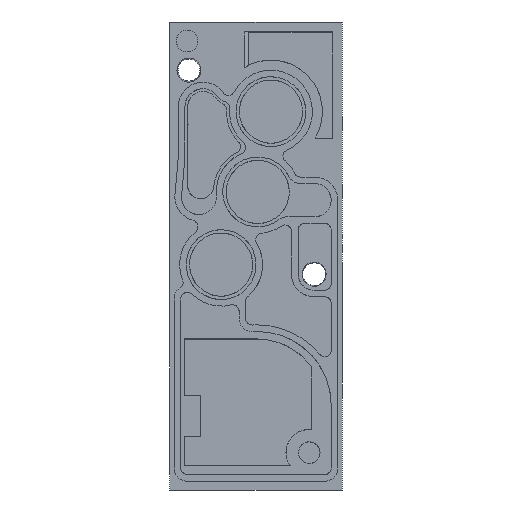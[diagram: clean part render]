
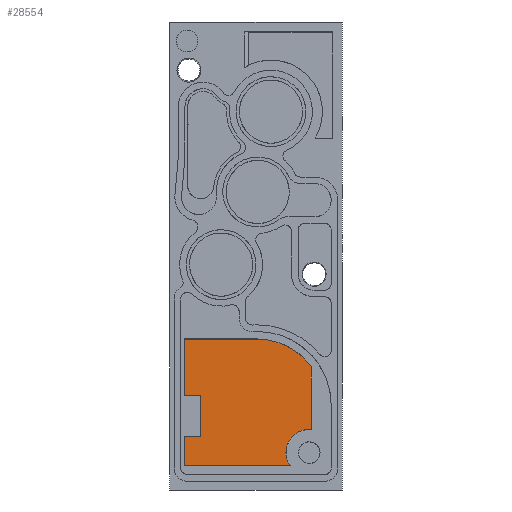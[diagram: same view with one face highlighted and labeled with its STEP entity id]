
A CAD part, left-side view. The second image highlights one B-rep face of the part: STEP entity #28554.
In plain terms, the highlighted planar face has unit normal (-1, 0, 0).
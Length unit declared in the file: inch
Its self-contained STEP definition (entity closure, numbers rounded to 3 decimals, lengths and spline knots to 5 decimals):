
#371 = ORIENTED_EDGE ( 'NONE', *, *, #1328, .T. ) ;
#480 = B_SPLINE_CURVE_WITH_KNOTS ( 'NONE', 3,
 ( #17629, #29591, #29273, #10855, #3889, #6399, #15406, #24815, #22279, #20057 ),
 .UNSPECIFIED., .F., .F.,
 ( 4, 2, 2, 2, 4 ),
 ( 0., 0.184, 0.368, 0.55201, 0.73601 ),
 .UNSPECIFIED. ) ;
#1328 = EDGE_CURVE ( 'NONE', #19443, #21040, #22081, .T. ) ;
#1396 = CARTESIAN_POINT ( 'NONE',  ( -0.48228, 1.87547, -0.98477 ) ) ;
#1485 = CARTESIAN_POINT ( 'NONE',  ( -0.48228, 0.48881, -1.18024 ) ) ;
#1584 = CARTESIAN_POINT ( 'NONE',  ( -0.48228, 0.4874, -1.18148 ) ) ;
#1692 = VECTOR ( 'NONE', #21160, 39.37008 ) ;
#1787 = CARTESIAN_POINT ( 'NONE',  ( -0.48228, 0.62023, -2.48767 ) ) ;
#1824 = CARTESIAN_POINT ( 'NONE',  ( -0.48228, 1.87598, -2.14225 ) ) ;
#1888 = CARTESIAN_POINT ( 'NONE',  ( -0.48228, 1.87547, -2.14225 ) ) ;
#2214 = CARTESIAN_POINT ( 'NONE',  ( -0.48228, 0.66784, -2.33268 ) ) ;
#2251 = LINE ( 'NONE', #6121, #9503 ) ;
#2267 = CARTESIAN_POINT ( 'NONE',  ( -0.48228, 1.68059, -1.65303 ) ) ;
#3789 = CARTESIAN_POINT ( 'NONE',  ( -0.48228, 0.38458, -1.29035 ) ) ;
#3889 = CARTESIAN_POINT ( 'NONE',  ( -0.48228, 0.54966, -2.10299 ) ) ;
#3907 = CARTESIAN_POINT ( 'NONE',  ( -0.48228, 1.00787, -0.98477 ) ) ;
#3919 = CARTESIAN_POINT ( 'NONE',  ( -0.48228, 0.66784, -2.36011 ) ) ;
#3979 = FACE_OUTER_BOUND ( 'NONE', #18416, .T. ) ;
#4725 = VERTEX_POINT ( 'NONE', #16079 ) ;
#4752 = VERTEX_POINT ( 'NONE', #7358 ) ;
#4956 = CARTESIAN_POINT ( 'NONE',  ( -0.48228, 1.87547, -1.65303 ) ) ;
#4990 = VERTEX_POINT ( 'NONE', #2267 ) ;
#5582 = VECTOR ( 'NONE', #17233, 39.37008 ) ;
#5691 = EDGE_CURVE ( 'NONE', #15071, #26275, #480, .T. ) ;
#6121 = CARTESIAN_POINT ( 'NONE',  ( -0.48228, 1.6811, -1.65303 ) ) ;
#6286 = CARTESIAN_POINT ( 'NONE',  ( -0.48228, 2.06693, 2.77559 ) ) ;
#6399 = CARTESIAN_POINT ( 'NONE',  ( -0.48228, 0.60613, -2.15455 ) ) ;
#7358 = CARTESIAN_POINT ( 'NONE',  ( -0.48228, 1.00787, -0.98477 ) ) ;
#7382 = EDGE_CURVE ( 'NONE', #26275, #27838, #21912, .T. ) ;
#8237 = CARTESIAN_POINT ( 'NONE',  ( -0.48228, 0.53825, -1.13707 ) ) ;
#8244 = DIRECTION ( 'NONE',  ( 0., -1., 0. ) ) ;
#8260 = EDGE_CURVE ( 'NONE', #4990, #19443, #24910, .T. ) ;
#8445 = CARTESIAN_POINT ( 'NONE',  ( -0.48228, 0.82101, -1.00727 ) ) ;
#8548 = CARTESIAN_POINT ( 'NONE',  ( -0.48228, 0.59055, -1.10152 ) ) ;
#9049 = ORIENTED_EDGE ( 'NONE', *, *, #5691, .F. ) ;
#9050 = DIRECTION ( 'NONE',  ( 0., 0., -1. ) ) ;
#9077 = VECTOR ( 'NONE', #22943, 39.37008 ) ;
#9503 = VECTOR ( 'NONE', #8244, 39.37008 ) ;
#10056 = EDGE_CURVE ( 'NONE', #15071, #27994, #27686, .T. ) ;
#10102 = CARTESIAN_POINT ( 'NONE',  ( -0.48228, 0.36666, -1.31555 ) ) ;
#10124 = CARTESIAN_POINT ( 'NONE',  ( -0.48228, 1.68059, -2.14225 ) ) ;
#10314 = ORIENTED_EDGE ( 'NONE', *, *, #7382, .F. ) ;
#10444 = LINE ( 'NONE', #25017, #27816 ) ;
#10506 = ORIENTED_EDGE ( 'NONE', *, *, #19055, .T. ) ;
#10576 = CARTESIAN_POINT ( 'NONE',  ( -0.48228, 0.79793, -1.01321 ) ) ;
#10855 = CARTESIAN_POINT ( 'NONE',  ( -0.48228, 0.516, -2.08317 ) ) ;
#10865 = CARTESIAN_POINT ( 'NONE',  ( -0.48228, 0.71884, -1.03855 ) ) ;
#10878 = CARTESIAN_POINT ( 'NONE',  ( -0.48228, 0.66372, -2.38753 ) ) ;
#10970 = AXIS2_PLACEMENT_3D ( 'NONE', #6286, #27234, #17909 ) ;
#11400 = DIRECTION ( 'NONE',  ( 0., 0., -1. ) ) ;
#11654 = CARTESIAN_POINT ( 'NONE',  ( -0.48228, 0.36666, -2.05771 ) ) ;
#12635 = EDGE_CURVE ( 'NONE', #4725, #27838, #22298, .T. ) ;
#13207 = VERTEX_POINT ( 'NONE', #4956 ) ;
#13265 = CARTESIAN_POINT ( 'NONE',  ( -0.48228, 0.36666, -1.31555 ) ) ;
#13344 = CARTESIAN_POINT ( 'NONE',  ( -0.48228, 1.00787, -0.98477 ) ) ;
#13752 = ORIENTED_EDGE ( 'NONE', *, *, #22793, .T. ) ;
#15071 = VERTEX_POINT ( 'NONE', #11654 ) ;
#15081 = CARTESIAN_POINT ( 'NONE',  ( -0.48228, 0.36666, -1.31539 ) ) ;
#15179 = B_SPLINE_CURVE_WITH_KNOTS ( 'NONE', 3,
 ( #13265, #3789, #24725, #15512, #22396, #29190, #22292, #1584, #1485, #8237, #8548, #20165, #10865, #22087, #10576, #17726, #26768, #8445, #15615, #15307, #17644, #3907 ),
 .UNSPECIFIED., .F., .F.,
 ( 4, 1, 1, 1, 1, 2, 2, 2, 1, 1, 1, 1, 2, 2, 4 ),
 ( 0., 0.125, 0.1875, 0.21875, 0.23437, 0.24219, 0.25, 0.5, 0.625, 0.6875, 0.71875, 0.73438, 0.74219, 0.75, 1. ),
 .UNSPECIFIED. ) ;
#15281 = DIRECTION ( 'NONE',  ( 0., 0., 1. ) ) ;
#15307 = CARTESIAN_POINT ( 'NONE',  ( -0.48228, 0.88502, -0.99196 ) ) ;
#15406 = CARTESIAN_POINT ( 'NONE',  ( -0.48228, 0.62892, -2.18626 ) ) ;
#15512 = CARTESIAN_POINT ( 'NONE',  ( -0.48228, 0.45072, -1.2156 ) ) ;
#15615 = CARTESIAN_POINT ( 'NONE',  ( -0.48228, 0.823, -1.00679 ) ) ;
#15623 = CARTESIAN_POINT ( 'NONE',  ( -0.48228, 0.63563, -2.46497 ) ) ;
#16079 = CARTESIAN_POINT ( 'NONE',  ( -0.48228, 1.87547, -2.48767 ) ) ;
#16144 = CARTESIAN_POINT ( 'NONE',  ( -0.48228, 0.61925, -2.48767 ) ) ;
#16603 = LINE ( 'NONE', #13344, #20515 ) ;
#16609 = VECTOR ( 'NONE', #11400, 39.37008 ) ;
#16892 = VERTEX_POINT ( 'NONE', #1396 ) ;
#17233 = DIRECTION ( 'NONE',  ( 0., 0., -1. ) ) ;
#17324 = PLANE ( 'NONE',  #10970 ) ;
#17629 = CARTESIAN_POINT ( 'NONE',  ( -0.48228, 0.36666, -2.05771 ) ) ;
#17644 = CARTESIAN_POINT ( 'NONE',  ( -0.48228, 0.94602, -0.98477 ) ) ;
#17726 = CARTESIAN_POINT ( 'NONE',  ( -0.48228, 0.81137, -1.00968 ) ) ;
#17909 = DIRECTION ( 'NONE',  ( 0., 0., 1. ) ) ;
#18269 = CARTESIAN_POINT ( 'NONE',  ( -0.48228, 1.68059, -2.14173 ) ) ;
#18416 = EDGE_LOOP ( 'NONE', ( #25347, #10314, #9049, #28498, #25644, #10506, #27969, #26957, #26631, #371, #13752 ) ) ;
#19055 = EDGE_CURVE ( 'NONE', #4752, #16892, #16603, .T. ) ;
#19443 = VERTEX_POINT ( 'NONE', #10124 ) ;
#20057 = CARTESIAN_POINT ( 'NONE',  ( -0.48228, 0.66784, -2.33268 ) ) ;
#20165 = CARTESIAN_POINT ( 'NONE',  ( -0.48228, 0.6754, -1.05774 ) ) ;
#20344 = EDGE_CURVE ( 'NONE', #27994, #4752, #15179, .T. ) ;
#20515 = VECTOR ( 'NONE', #24806, 39.37008 ) ;
#21040 = VERTEX_POINT ( 'NONE', #1888 ) ;
#21160 = DIRECTION ( 'NONE',  ( 0., -1., 0. ) ) ;
#21751 = CARTESIAN_POINT ( 'NONE',  ( -0.48228, 1.87547, -2.48819 ) ) ;
#21912 = B_SPLINE_CURVE_WITH_KNOTS ( 'NONE', 3,
 ( #24641, #3919, #10878, #27073, #15623, #1787 ),
 .UNSPECIFIED., .F., .F.,
 ( 4, 2, 4 ),
 ( 0.73601, 0.868, 1. ),
 .UNSPECIFIED. ) ;
#22081 = LINE ( 'NONE', #1824, #9077 ) ;
#22087 = CARTESIAN_POINT ( 'NONE',  ( -0.48228, 0.77127, -1.02087 ) ) ;
#22279 = CARTESIAN_POINT ( 'NONE',  ( -0.48228, 0.66784, -2.29444 ) ) ;
#22292 = CARTESIAN_POINT ( 'NONE',  ( -0.48228, 0.48451, -1.18404 ) ) ;
#22298 = LINE ( 'NONE', #16144, #1692 ) ;
#22396 = CARTESIAN_POINT ( 'NONE',  ( -0.48228, 0.47022, -1.197 ) ) ;
#22632 = VECTOR ( 'NONE', #15281, 39.37008 ) ;
#22793 = EDGE_CURVE ( 'NONE', #21040, #4725, #24397, .T. ) ;
#22943 = DIRECTION ( 'NONE',  ( 0., 1., 0. ) ) ;
#24086 = EDGE_CURVE ( 'NONE', #13207, #4990, #2251, .T. ) ;
#24397 = LINE ( 'NONE', #21751, #5582 ) ;
#24641 = CARTESIAN_POINT ( 'NONE',  ( -0.48228, 0.66784, -2.33268 ) ) ;
#24725 = CARTESIAN_POINT ( 'NONE',  ( -0.48228, 0.41348, -1.25438 ) ) ;
#24806 = DIRECTION ( 'NONE',  ( 0., 1., 0. ) ) ;
#24815 = CARTESIAN_POINT ( 'NONE',  ( -0.48228, 0.65978, -2.25623 ) ) ;
#24910 = LINE ( 'NONE', #18269, #16609 ) ;
#25017 = CARTESIAN_POINT ( 'NONE',  ( -0.48228, 1.87547, -1.65354 ) ) ;
#25347 = ORIENTED_EDGE ( 'NONE', *, *, #12635, .T. ) ;
#25644 = ORIENTED_EDGE ( 'NONE', *, *, #20344, .T. ) ;
#26275 = VERTEX_POINT ( 'NONE', #2214 ) ;
#26631 = ORIENTED_EDGE ( 'NONE', *, *, #8260, .T. ) ;
#26768 = CARTESIAN_POINT ( 'NONE',  ( -0.48228, 0.81715, -1.00823 ) ) ;
#26957 = ORIENTED_EDGE ( 'NONE', *, *, #24086, .T. ) ;
#27073 = CARTESIAN_POINT ( 'NONE',  ( -0.48228, 0.64761, -2.43997 ) ) ;
#27234 = DIRECTION ( 'NONE',  ( -1., 0., 0. ) ) ;
#27602 = CARTESIAN_POINT ( 'NONE',  ( -0.48228, 0.62023, -2.48767 ) ) ;
#27686 = LINE ( 'NONE', #15081, #22632 ) ;
#27816 = VECTOR ( 'NONE', #9050, 39.37008 ) ;
#27838 = VERTEX_POINT ( 'NONE', #27602 ) ;
#27969 = ORIENTED_EDGE ( 'NONE', *, *, #29757, .T. ) ;
#27994 = VERTEX_POINT ( 'NONE', #10102 ) ;
#28498 = ORIENTED_EDGE ( 'NONE', *, *, #10056, .T. ) ;
#28554 = ADVANCED_FACE ( 'NONE', ( #3979 ), #17324, .T. ) ;
#29190 = CARTESIAN_POINT ( 'NONE',  ( -0.48228, 0.48019, -1.1879 ) ) ;
#29273 = CARTESIAN_POINT ( 'NONE',  ( -0.48228, 0.44352, -2.05879 ) ) ;
#29591 = CARTESIAN_POINT ( 'NONE',  ( -0.48228, 0.40473, -2.05424 ) ) ;
#29757 = EDGE_CURVE ( 'NONE', #16892, #13207, #10444, .T. ) ;
